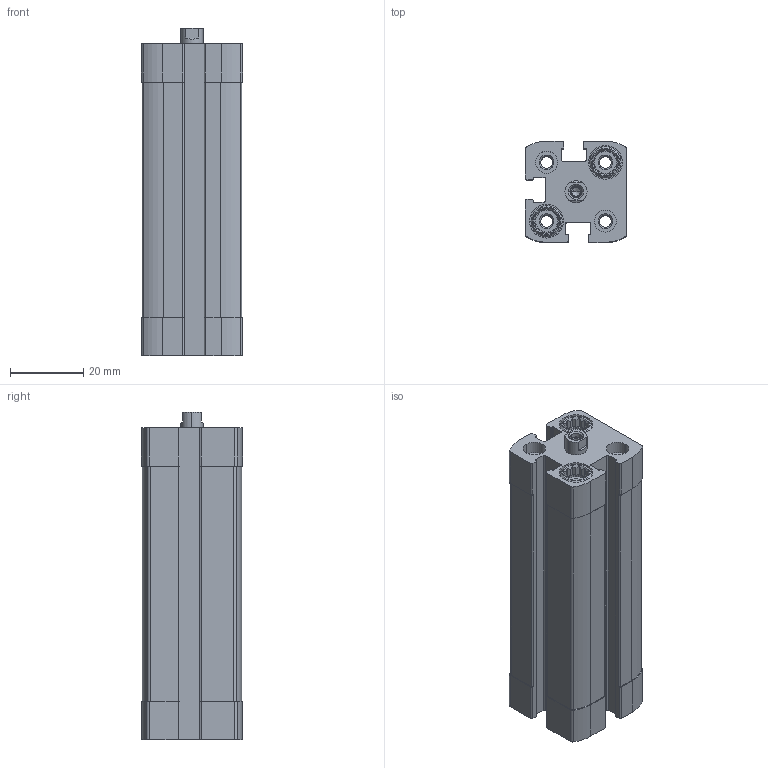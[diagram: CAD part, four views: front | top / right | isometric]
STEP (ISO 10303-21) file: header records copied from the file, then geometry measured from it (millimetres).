
FILE_DESCRIPTION (( 'STEP AP203' ), '1' );
FILE_NAME ('CCN12-50F.STEP', '2017-03-23T18:06:23', ( '' ), ( '' ), 'SwSTEP 2.0', 'SolidWorks 2016', '' );
FILE_SCHEMA (( 'CONFIG_CONTROL_DESIGN' ));
Length unit declared in the file: millimetre
Products named in the file (3): CCN12-50F---(Z); CCN12-50F_(KS); CCN12-50F
Assembly tree (2 placements, depth 2):
  CCN12-50F
    CCN12-50F---(Z)
    CCN12-50F_(KS)
Bounding box: 27.5 x 27.5 x 89.2 mm (x, y, z)
Volume: 43833.7 mm3; surface area: 23116.8 mm2
Topology: 2 solids, 2 shells, 363 faces, 944 edges, 619 vertices
Faces by surface type: plane 187, cylinder 134, cone 42
Entity records: 11561 total; most frequent: CARTESIAN_POINT 2223, DIRECTION 1904, ORIENTED_EDGE 1884, EDGE_CURVE 942, AXIS2_PLACEMENT_3D 692, VERTEX_POINT 619, LINE 520, VECTOR 520
